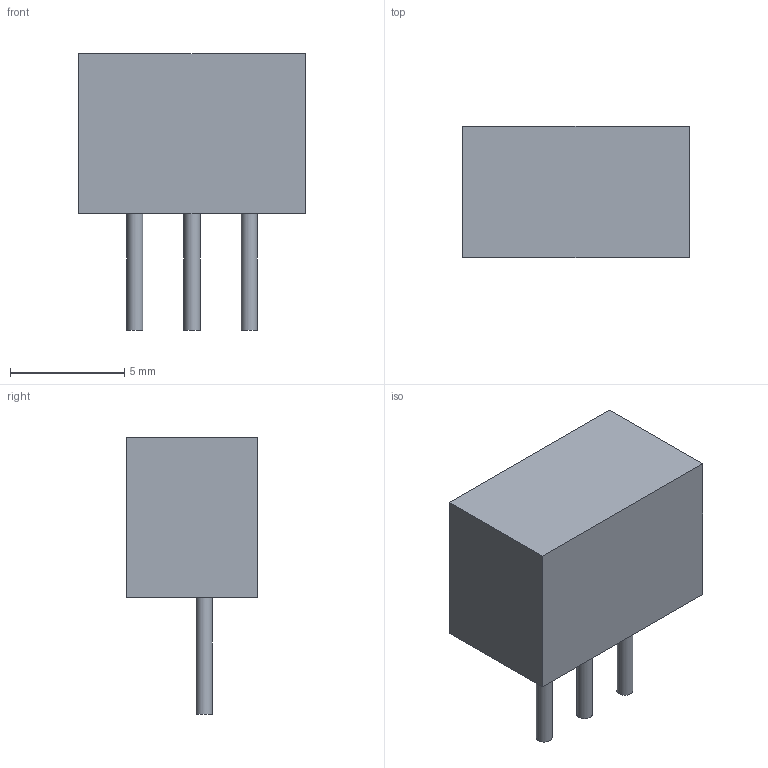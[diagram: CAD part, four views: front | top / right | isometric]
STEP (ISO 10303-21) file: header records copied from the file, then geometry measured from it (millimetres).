
FILE_DESCRIPTION(('FreeCAD Model'),'2;1');
FILE_NAME('/var/www/3D/0T/613919.2.5.stp','2025-09-25T09:52:48',( 'Author'),(''),'Open CASCADE STEP processor 6.9','FreeCAD','Unknown' );
FILE_SCHEMA(('AUTOMOTIVE_DESIGN { 1 0 10303 214 1 1 1 1 }'));
Length unit declared in the file: millimetre
Products named in the file (3): ASSEMBLY; Body; Leads
Assembly tree (2 placements, depth 2):
  ASSEMBLY
    Body
    Leads
Bounding box: 9.9 x 5.75 x 12.1 mm (x, y, z)
Volume: 404.4 mm3; surface area: 368.9 mm2
Topology: 4 solids, 4 shells, 15 faces, 21 edges, 14 vertices
Faces by surface type: plane 12, cylinder 3
Full cylindrical faces by diameter (mm): 0.7 x3
Entity records: 674 total; most frequent: DIRECTION 105, CARTESIAN_POINT 95, LINE 51, VECTOR 51, ORIENTED_EDGE 42, PCURVE 42, DEFINITIONAL_REPRESENTATION 42, AXIS2_PLACEMENT_3D 24
